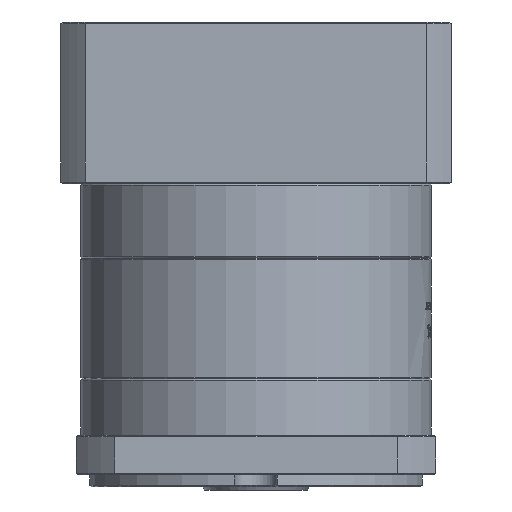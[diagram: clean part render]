
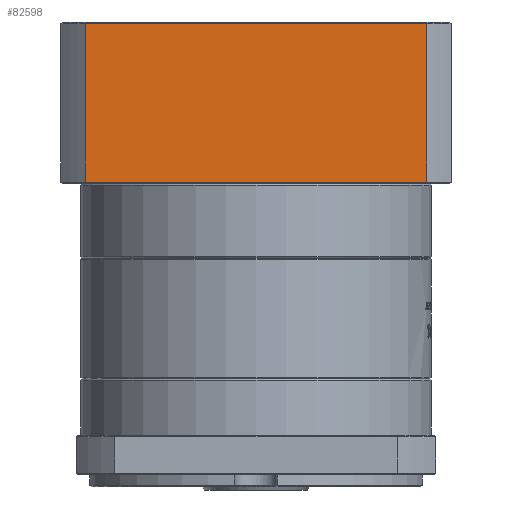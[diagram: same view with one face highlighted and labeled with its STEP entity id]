
A CAD part, front view. The second image highlights one B-rep face of the part: STEP entity #82598.
In plain terms, the highlighted planar face has unit normal (0, -1, 0).
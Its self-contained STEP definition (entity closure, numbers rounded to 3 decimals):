
#5068 = CARTESIAN_POINT ( 'NONE',  ( 129.843, 52.637, 3.062 ) ) ;
#8977 = VECTOR ( 'NONE', #26336, 1000. ) ;
#9647 = ORIENTED_EDGE ( 'NONE', *, *, #48211, .T. ) ;
#10325 = CARTESIAN_POINT ( 'NONE',  ( 121.78, 52.637, 2.562 ) ) ;
#13866 = CARTESIAN_POINT ( 'NONE',  ( 9.905, 52.637, 3.062 ) ) ;
#16157 = CARTESIAN_POINT ( 'NONE',  ( 121.78, 52.637, -49.438 ) ) ;
#20954 = DIRECTION ( 'NONE',  ( 1., 0., 0. ) ) ;
#23471 = VERTEX_POINT ( 'NONE', #10325 ) ;
#26336 = DIRECTION ( 'NONE',  ( 1., 0., 0. ) ) ;
#30383 = PLANE ( 'NONE',  #72835 ) ;
#31556 = CARTESIAN_POINT ( 'NONE',  ( 129.843, 52.637, 2.562 ) ) ;
#37331 = DIRECTION ( 'NONE',  ( 0., 1., 0. ) ) ;
#38387 = ORIENTED_EDGE ( 'NONE', *, *, #69591, .F. ) ;
#40523 = LINE ( 'NONE', #13866, #106350 ) ;
#42064 = DIRECTION ( 'NONE',  ( 0., 0., -1. ) ) ;
#48211 = EDGE_CURVE ( 'NONE', #64128, #74759, #74644, .T. ) ;
#48331 = CARTESIAN_POINT ( 'NONE',  ( 121.78, 52.637, -292.759 ) ) ;
#49222 = CARTESIAN_POINT ( 'NONE',  ( 9.905, 52.637, -49.438 ) ) ;
#49507 = LINE ( 'NONE', #31556, #81049 ) ;
#55632 = DIRECTION ( 'NONE',  ( 0., 0., 1. ) ) ;
#55900 = LINE ( 'NONE', #48331, #63788 ) ;
#59593 = EDGE_CURVE ( 'NONE', #64128, #90965, #40523, .T. ) ;
#61413 = FACE_OUTER_BOUND ( 'NONE', #98937, .T. ) ;
#62971 = DIRECTION ( 'NONE',  ( -1., 0., 0. ) ) ;
#63135 = EDGE_CURVE ( 'NONE', #90965, #23471, #49507, .T. ) ;
#63788 = VECTOR ( 'NONE', #42064, 1000. ) ;
#64128 = VERTEX_POINT ( 'NONE', #49222 ) ;
#69591 = EDGE_CURVE ( 'NONE', #23471, #74759, #55900, .T. ) ;
#72835 = AXIS2_PLACEMENT_3D ( 'NONE', #5068, #37331, #62971 ) ;
#74644 = LINE ( 'NONE', #94564, #8977 ) ;
#74759 = VERTEX_POINT ( 'NONE', #16157 ) ;
#81049 = VECTOR ( 'NONE', #20954, 1000. ) ;
#82598 = ADVANCED_FACE ( 'NONE', ( #61413 ), #30383, .F. ) ;
#90563 = CARTESIAN_POINT ( 'NONE',  ( 9.905, 52.637, 2.562 ) ) ;
#90965 = VERTEX_POINT ( 'NONE', #90563 ) ;
#94564 = CARTESIAN_POINT ( 'NONE',  ( 129.843, 52.637, -49.438 ) ) ;
#96179 = ORIENTED_EDGE ( 'NONE', *, *, #59593, .F. ) ;
#98937 = EDGE_LOOP ( 'NONE', ( #9647, #38387, #104397, #96179 ) ) ;
#104397 = ORIENTED_EDGE ( 'NONE', *, *, #63135, .F. ) ;
#106350 = VECTOR ( 'NONE', #55632, 1000. ) ;
